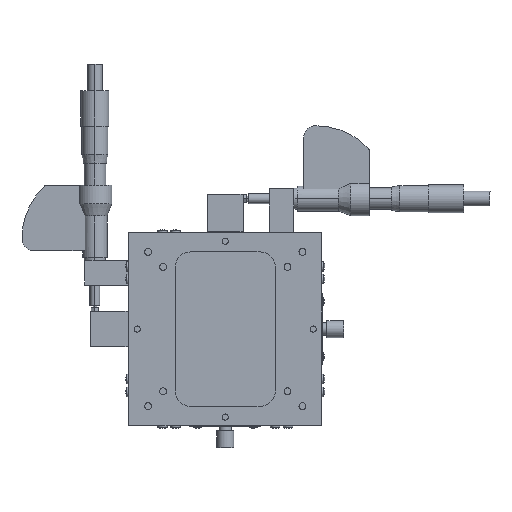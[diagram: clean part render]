
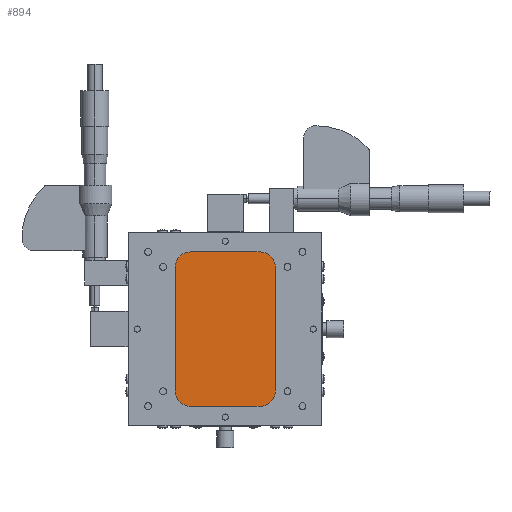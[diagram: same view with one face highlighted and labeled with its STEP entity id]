
A CAD part, front view. The second image highlights one B-rep face of the part: STEP entity #894.
In plain terms, the highlighted planar face has unit normal (0, -1, 0).
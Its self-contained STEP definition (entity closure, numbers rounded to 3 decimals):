
#425 = ORIENTED_EDGE ( 'NONE', *, *, #426, .F. ) ;
#426 = EDGE_CURVE ( 'NONE', #427, #440, #5461, .T. ) ;
#427 = VERTEX_POINT ( 'NONE', #5457 ) ;
#428 = ORIENTED_EDGE ( 'NONE', *, *, #429, .F. ) ;
#429 = EDGE_CURVE ( 'NONE', #430, #427, #5456, .T. ) ;
#430 = VERTEX_POINT ( 'NONE', #5451 ) ;
#431 = ORIENTED_EDGE ( 'NONE', *, *, #998, .F. ) ;
#432 = ORIENTED_EDGE ( 'NONE', *, *, #433, .F. ) ;
#433 = EDGE_CURVE ( 'NONE', #434, #850, #5450, .T. ) ;
#434 = VERTEX_POINT ( 'NONE', #5445 ) ;
#435 = ORIENTED_EDGE ( 'NONE', *, *, #436, .F. ) ;
#436 = EDGE_CURVE ( 'NONE', #437, #434, #5444, .T. ) ;
#437 = VERTEX_POINT ( 'NONE', #5440 ) ;
#438 = ORIENTED_EDGE ( 'NONE', *, *, #439, .F. ) ;
#439 = EDGE_CURVE ( 'NONE', #440, #437, #5439, .T. ) ;
#440 = VERTEX_POINT ( 'NONE', #5434 ) ;
#772 = ORIENTED_EDGE ( 'NONE', *, *, #773, .F. ) ;
#773 = EDGE_CURVE ( 'NONE', #850, #784, #6506, .T. ) ;
#783 = EDGE_CURVE ( 'NONE', #784, #785, #6457, .T. ) ;
#784 = VERTEX_POINT ( 'NONE', #6452 ) ;
#785 = VERTEX_POINT ( 'NONE', #6451 ) ;
#850 = VERTEX_POINT ( 'NONE', #6795 ) ;
#894 = ADVANCED_FACE ( 'NONE', ( #6727 ), #6726, .T. ) ;
#895 = ORIENTED_EDGE ( 'NONE', *, *, #783, .F. ) ;
#984 = EDGE_LOOP ( 'NONE', ( #895, #772, #432, #435, #438, #425, #428, #431 ) ) ;
#998 = EDGE_CURVE ( 'NONE', #785, #430, #7449, .T. ) ;
#5434 = CARTESIAN_POINT ( 'NONE',  ( 22.5, 0.5, 50. ) ) ;
#5435 = DIRECTION ( 'NONE',  ( 0., 0., 1. ) ) ;
#5436 = DIRECTION ( 'NONE',  ( 0., 1., 0. ) ) ;
#5437 = CARTESIAN_POINT ( 'NONE',  ( 22.5, 0.5, 40. ) ) ;
#5438 = AXIS2_PLACEMENT_3D ( 'NONE', #5437, #5436, #5435 ) ;
#5439 = CIRCLE ( 'NONE', #5438, 10. ) ;
#5440 = CARTESIAN_POINT ( 'NONE',  ( 32.5, 0.5, 40. ) ) ;
#5441 = DIRECTION ( 'NONE',  ( 0., 0., -1. ) ) ;
#5442 = VECTOR ( 'NONE', #5441, 1000. ) ;
#5443 = CARTESIAN_POINT ( 'NONE',  ( 32.5, 0.5, -40. ) ) ;
#5444 = LINE ( 'NONE', #5443, #5442 ) ;
#5445 = CARTESIAN_POINT ( 'NONE',  ( 32.5, 0.5, -40. ) ) ;
#5446 = DIRECTION ( 'NONE',  ( 0., 0., 1. ) ) ;
#5447 = DIRECTION ( 'NONE',  ( 0., 1., 0. ) ) ;
#5448 = CARTESIAN_POINT ( 'NONE',  ( 22.5, 0.5, -40. ) ) ;
#5449 = AXIS2_PLACEMENT_3D ( 'NONE', #5448, #5447, #5446 ) ;
#5450 = CIRCLE ( 'NONE', #5449, 10. ) ;
#5451 = CARTESIAN_POINT ( 'NONE',  ( -32.5, 0.5, 40. ) ) ;
#5452 = DIRECTION ( 'NONE',  ( 0., 0., 1. ) ) ;
#5453 = DIRECTION ( 'NONE',  ( 0., 1., 0. ) ) ;
#5454 = CARTESIAN_POINT ( 'NONE',  ( -22.5, 0.5, 40. ) ) ;
#5455 = AXIS2_PLACEMENT_3D ( 'NONE', #5454, #5453, #5452 ) ;
#5456 = CIRCLE ( 'NONE', #5455, 10. ) ;
#5457 = CARTESIAN_POINT ( 'NONE',  ( -22.5, 0.5, 50. ) ) ;
#5458 = DIRECTION ( 'NONE',  ( 1., 0., 0. ) ) ;
#5459 = VECTOR ( 'NONE', #5458, 1000. ) ;
#5460 = CARTESIAN_POINT ( 'NONE',  ( 22.5, 0.5, 50. ) ) ;
#5461 = LINE ( 'NONE', #5460, #5459 ) ;
#6451 = CARTESIAN_POINT ( 'NONE',  ( -32.5, 0.5, -40. ) ) ;
#6452 = CARTESIAN_POINT ( 'NONE',  ( -22.5, 0.5, -50. ) ) ;
#6453 = DIRECTION ( 'NONE',  ( 0., 0., 1. ) ) ;
#6454 = DIRECTION ( 'NONE',  ( 0., 1., 0. ) ) ;
#6455 = CARTESIAN_POINT ( 'NONE',  ( -22.5, 0.5, -40. ) ) ;
#6456 = AXIS2_PLACEMENT_3D ( 'NONE', #6455, #6454, #6453 ) ;
#6457 = CIRCLE ( 'NONE', #6456, 10. ) ;
#6480 = DIRECTION ( 'NONE',  ( -1., 0., 0. ) ) ;
#6481 = VECTOR ( 'NONE', #6480, 1000. ) ;
#6505 = CARTESIAN_POINT ( 'NONE',  ( 22.5, 0.5, -50. ) ) ;
#6506 = LINE ( 'NONE', #6505, #6481 ) ;
#6722 = DIRECTION ( 'NONE',  ( 0., 0., 1. ) ) ;
#6723 = DIRECTION ( 'NONE',  ( 0., -1., 0. ) ) ;
#6724 = CARTESIAN_POINT ( 'NONE',  ( -22.5, 0.5, -40. ) ) ;
#6725 = AXIS2_PLACEMENT_3D ( 'NONE', #6724, #6723, #6722 ) ;
#6726 = PLANE ( 'NONE',  #6725 ) ;
#6727 = FACE_OUTER_BOUND ( 'NONE', #984, .T. ) ;
#6795 = CARTESIAN_POINT ( 'NONE',  ( 22.5, 0.5, -50. ) ) ;
#7446 = DIRECTION ( 'NONE',  ( 0., 0., 1. ) ) ;
#7447 = VECTOR ( 'NONE', #7446, 1000. ) ;
#7448 = CARTESIAN_POINT ( 'NONE',  ( -32.5, 0.5, -40. ) ) ;
#7449 = LINE ( 'NONE', #7448, #7447 ) ;
